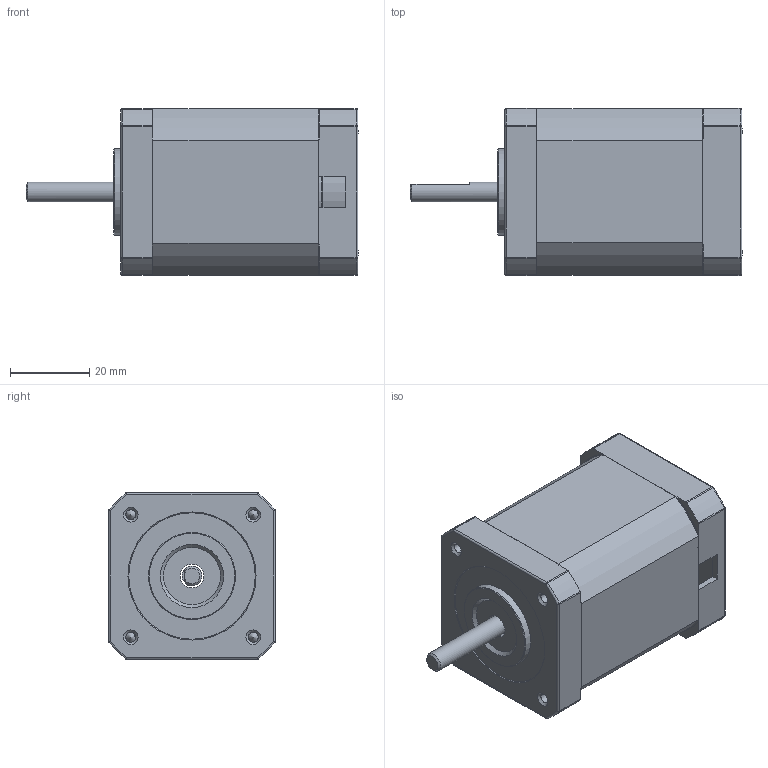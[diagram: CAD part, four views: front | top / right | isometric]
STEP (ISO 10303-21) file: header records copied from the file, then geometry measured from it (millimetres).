
FILE_DESCRIPTION (( 'STEP AP203' ), '1' );
FILE_NAME ('YK42HB60-02A.STEP', '2018-09-26T06:38:08', ( '' ), ( '' ), 'SwSTEP 2.0', 'SolidWorks 2014', '' );
FILE_SCHEMA (( 'CONFIG_CONTROL_DESIGN' ));
Length unit declared in the file: millimetre
Products named in the file (14): YK42HBXX-02粣郋; 蹟隊; YK42HB60-02A; YK42HBXX-02A前盖; YK42HBXX-02A綴裔; YK42HBXX-02A隅赽
Assembly tree (8 placements, depth 2):
  蹟隊
  YK42HB60-02A
    YK42HBXX-02A前盖
    YK42HBXX-02A隅赽
    YK42HBXX-02A綴裔
    YK42HBXX-02粣郋
    蹟隊  x4
  蹟隊
  蹟隊
  YK42HBXX-02A前盖
Bounding box: 84 x 42.2 x 42.2 mm (x, y, z)
Volume: 66649.9 mm3; surface area: 30515.3 mm2
Topology: 4 solids, 12 shells, 468 faces, 1260 edges, 758 vertices
Faces by surface type: cylinder 225, plane 124, cone 73, sphere 32, torus 10, bspline 4
Full cylindrical faces by diameter (mm): 2.5 x4, 3 x108, 3.3 x8, 5 x1, 6 x1, 6.5 x1, 13 x2, 16 x2, 22 x1, 25.91 x3, 26.3 x1, 27 x1
Entity records: 9383 total; most frequent: CARTESIAN_POINT 2015, DIRECTION 1386, ORIENTED_EDGE 1132, EDGE_CURVE 570, AXIS2_PLACEMENT_3D 558, VERTEX_POINT 367, EDGE_LOOP 347, FACE_OUTER_BOUND 293
